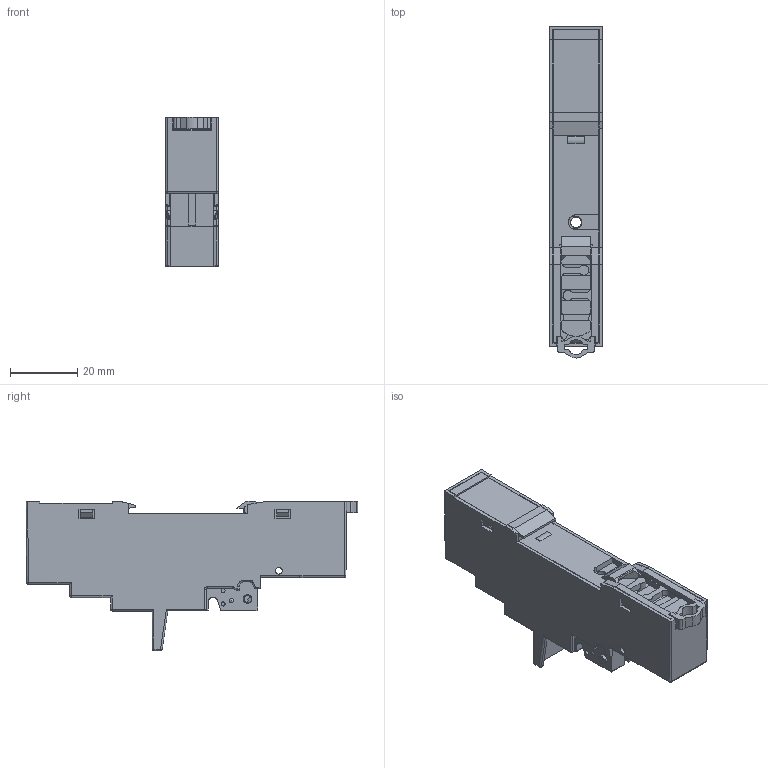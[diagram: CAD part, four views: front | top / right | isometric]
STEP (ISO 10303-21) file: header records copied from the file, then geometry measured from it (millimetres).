
FILE_DESCRIPTION(('STEP AP214'),'2;1');
FILE_NAME('49_72 --- 95_55_3 zoccolo.stp','2010-11-04T15:56:46',(''),(''),'2007.1.106','THINKDESIGN','');
FILE_SCHEMA(('AUTOMOTIVE_DESIGN'));
Products named in the file (1): None
Bounding box: 15.8 x 99 x 44.7 mm (x, y, z)
Surface area: 24388.9 mm2 (no closed solid volume)
Topology: 0 solids, 0 shells, 907 faces, 5106 edges, 5071 vertices
Faces by surface type: plane 657, cylinder 175, bspline 75
Full cylindrical faces by diameter (mm): 1.2 x4, 2 x2, 2.5 x2, 3 x2, 3.6 x1
Entity records: 55663 total; most frequent: CARTESIAN_POINT 18427, DIRECTION 6519, COMPOSITE_CURVE_SEGMENT 5082, TRIMMED_CURVE 4504, VECTOR 4173, LINE 4173, AXIS2_PLACEMENT_3D 1173, OUTER_BOUNDARY_CURVE 907
